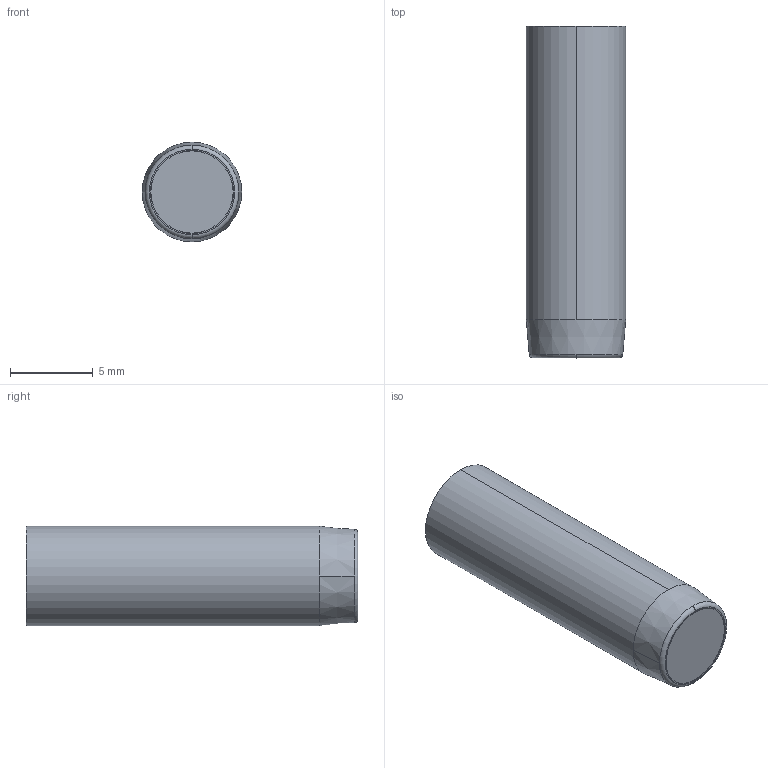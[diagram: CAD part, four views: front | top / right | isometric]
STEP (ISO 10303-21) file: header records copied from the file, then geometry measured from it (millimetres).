
FILE_DESCRIPTION (( 'STEP AP214' ), '1' );
FILE_NAME ('FA0632SF.STEP', '2013-06-28T07:25:41', ( '' ), ( '' ), 'SwSTEP 2.0', 'SolidWorks 2011', '' );
FILE_SCHEMA (( 'AUTOMOTIVE_DESIGN' ));
Length unit declared in the file: millimetre
Products named in the file (6): FA0632SF; 9FA 063212; FA 063200-2 - comprimido; IA 3217SF; FA 063200-3; FA 063200-1
Assembly tree (5 placements, depth 2):
  FA0632SF
    FA 063200-2 - comprimido
    IA 3217SF
    FA 063200-1
    FA 063200-3
    9FA 063212
Bounding box: 6 x 20 x 6 mm (x, y, z)
Volume: 469.8 mm3; surface area: 1126.7 mm2
Topology: 5 solids, 5 shells, 303 faces, 770 edges, 503 vertices
Faces by surface type: plane 140, cylinder 129, cone 22, torus 10, bspline 2
Entity records: 11256 total; most frequent: CARTESIAN_POINT 3428, DIRECTION 1656, ORIENTED_EDGE 1536, EDGE_CURVE 768, AXIS2_PLACEMENT_3D 615, VERTEX_POINT 503, VECTOR 426, LINE 426
